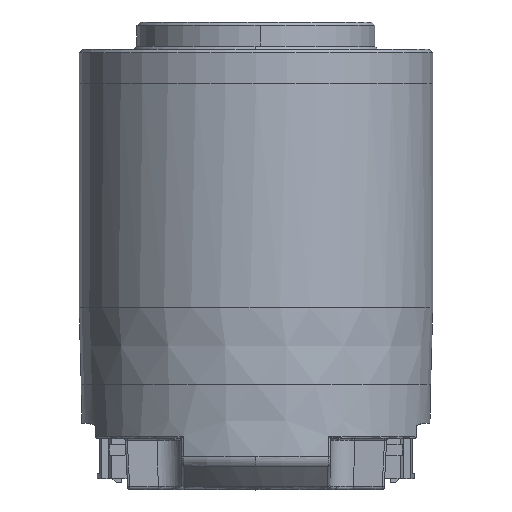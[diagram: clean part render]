
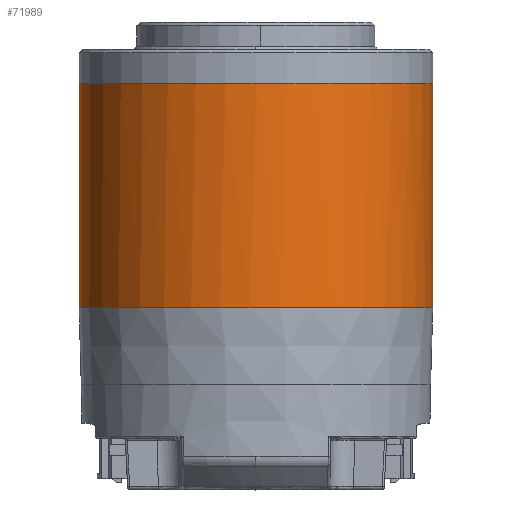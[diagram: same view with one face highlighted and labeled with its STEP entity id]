
A CAD part, top view. The second image highlights one B-rep face of the part: STEP entity #71989.
In plain terms, the highlighted cylindrical face has radius 26 mm (diameter 52 mm), a partial arc.
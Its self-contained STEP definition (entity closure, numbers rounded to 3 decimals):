
#976 = ORIENTED_EDGE ( 'NONE', *, *, #34606, .F. ) ;
#5228 = EDGE_CURVE ( 'NONE', #143866, #127676, #15091, .T. ) ;
#5915 = LINE ( 'NONE', #85783, #86714 ) ;
#6669 = DIRECTION ( 'NONE',  ( 0., 1., 0. ) ) ;
#10406 = DIRECTION ( 'NONE',  ( 0., 1., 0. ) ) ;
#15091 = CIRCLE ( 'NONE', #118159, 26. ) ;
#17821 = CARTESIAN_POINT ( 'NONE',  ( -25.977, 71.759, -0.024 ) ) ;
#23212 = AXIS2_PLACEMENT_3D ( 'NONE', #123559, #124040, #113219 ) ;
#26008 = CARTESIAN_POINT ( 'NONE',  ( 19.022, 38.759, 17.724 ) ) ;
#28362 = CARTESIAN_POINT ( 'NONE',  ( 26.023, 34.759, -0.024 ) ) ;
#31539 = EDGE_CURVE ( 'NONE', #35555, #129444, #125173, .T. ) ;
#34606 = EDGE_CURVE ( 'NONE', #75953, #35555, #5915, .T. ) ;
#35555 = VERTEX_POINT ( 'NONE', #17821 ) ;
#36456 = EDGE_CURVE ( 'NONE', #75953, #143866, #97989, .T. ) ;
#39560 = AXIS2_PLACEMENT_3D ( 'NONE', #108081, #6669, #109559 ) ;
#43401 = AXIS2_PLACEMENT_3D ( 'NONE', #45130, #10406, #66672 ) ;
#43829 = FACE_OUTER_BOUND ( 'NONE', #139513, .T. ) ;
#45130 = CARTESIAN_POINT ( 'NONE',  ( 0.023, 71.759, -0.024 ) ) ;
#50469 = ORIENTED_EDGE ( 'NONE', *, *, #70791, .T. ) ;
#53932 = DIRECTION ( 'NONE',  ( 0., 1., 0. ) ) ;
#58387 = VECTOR ( 'NONE', #141609, 1000. ) ;
#66672 = DIRECTION ( 'NONE',  ( -1., 0., 0. ) ) ;
#70791 = EDGE_CURVE ( 'NONE', #127676, #129444, #88301, .T. ) ;
#71989 = ADVANCED_FACE ( 'NONE', ( #43829 ), #129807, .T. ) ;
#72619 = CARTESIAN_POINT ( 'NONE',  ( -25.977, 38.759, -0.024 ) ) ;
#75953 = VERTEX_POINT ( 'NONE', #72619 ) ;
#79652 = ORIENTED_EDGE ( 'NONE', *, *, #5228, .T. ) ;
#83755 = CARTESIAN_POINT ( 'NONE',  ( 26.023, 71.759, -0.024 ) ) ;
#85783 = CARTESIAN_POINT ( 'NONE',  ( -25.977, 34.759, -0.024 ) ) ;
#86634 = ORIENTED_EDGE ( 'NONE', *, *, #31539, .F. ) ;
#86714 = VECTOR ( 'NONE', #97061, 1000. ) ;
#88301 = LINE ( 'NONE', #28362, #58387 ) ;
#89271 = DIRECTION ( 'NONE',  ( 1., 0., 0. ) ) ;
#97061 = DIRECTION ( 'NONE',  ( 0., 1., 0. ) ) ;
#97989 = CIRCLE ( 'NONE', #39560, 26. ) ;
#108081 = CARTESIAN_POINT ( 'NONE',  ( 0.023, 38.759, -0.024 ) ) ;
#109559 = DIRECTION ( 'NONE',  ( 1., 0., 0. ) ) ;
#113219 = DIRECTION ( 'NONE',  ( -1., 0., 0. ) ) ;
#118159 = AXIS2_PLACEMENT_3D ( 'NONE', #132928, #53932, #89271 ) ;
#123559 = CARTESIAN_POINT ( 'NONE',  ( 0.023, 34.759, -0.024 ) ) ;
#124040 = DIRECTION ( 'NONE',  ( 0., 1., 0. ) ) ;
#125173 = CIRCLE ( 'NONE', #43401, 26. ) ;
#127676 = VERTEX_POINT ( 'NONE', #130317 ) ;
#129444 = VERTEX_POINT ( 'NONE', #83755 ) ;
#129807 = CYLINDRICAL_SURFACE ( 'NONE', #23212, 26. ) ;
#130317 = CARTESIAN_POINT ( 'NONE',  ( 26.023, 38.759, -0.024 ) ) ;
#132928 = CARTESIAN_POINT ( 'NONE',  ( 0.023, 38.759, -0.024 ) ) ;
#139513 = EDGE_LOOP ( 'NONE', ( #79652, #50469, #86634, #976, #142569 ) ) ;
#141609 = DIRECTION ( 'NONE',  ( 0., 1., 0. ) ) ;
#142569 = ORIENTED_EDGE ( 'NONE', *, *, #36456, .T. ) ;
#143866 = VERTEX_POINT ( 'NONE', #26008 ) ;
